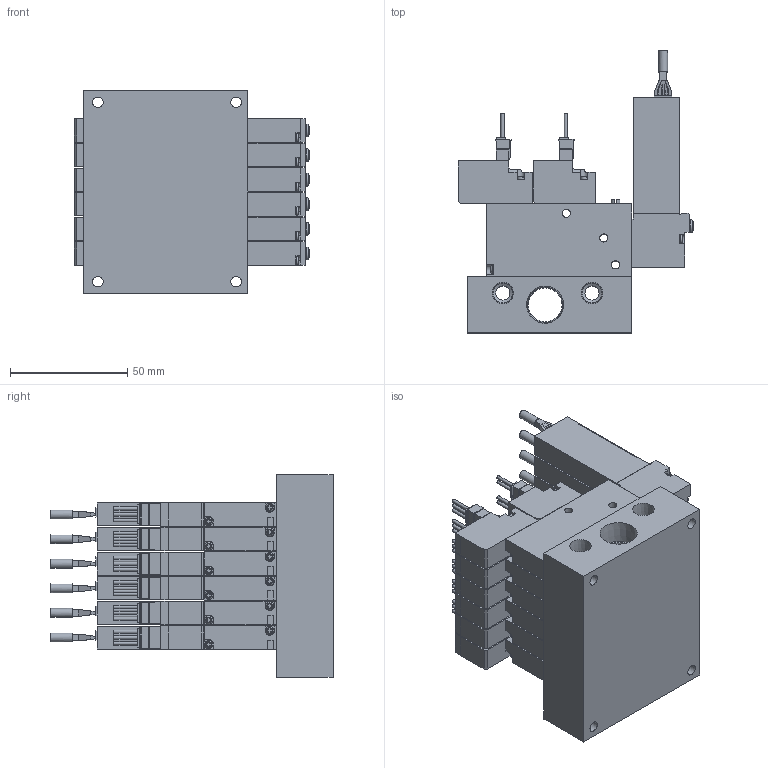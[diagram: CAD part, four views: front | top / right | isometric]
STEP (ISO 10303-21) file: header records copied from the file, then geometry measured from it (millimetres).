
FILE_DESCRIPTION(('STEP AP203'),'1');
FILE_NAME('BMPV42MV9.V9P5W606.stp','2025-04-30T05:48:21',(' '),(' '),'Spatial InterOp 3D',' ',' ');
FILE_SCHEMA(('CONFIG_CONTROL_DESIGN'));
Length unit declared in the file: millimetre
Products named in the file (10): BMPV42MV9.V9P5W606; VACUUM VALVE FUNCTION MPV42-W; VACUUM SENSOR MPV42-V9; VACUUM VALVE FUNCTION MPV42-A; UNIT-MPV42; MC4-M6
Assembly tree (25 placements, depth 2):
  BMPV42MV9.V9P5W606
    VACUUM VALVE FUNCTION MPV42-W  x5
    VACUUM SENSOR MPV42-V9  x5
    VACUUM VALVE FUNCTION MPV42-A  x5
    UNIT-MPV42  x5
    VACUUM VALVE FUNCTION MPV42-W
    VACUUM VALVE FUNCTION MPV42-A
    UNIT-MPV42
    VACUUM SENSOR MPV42-V9
    MC4-M6
Bounding box: 100.35 x 120.3 x 86.5 mm (x, y, z)
Volume: 388709.4 mm3; surface area: 127439.8 mm2
Topology: 25 solids, 25 shells, 2331 faces, 6304 edges, 4173 vertices
Faces by surface type: plane 1818, cylinder 413, cone 40, sphere 30, torus 30
Full cylindrical faces by diameter (mm): 1.4 x30, 1.8 x6, 2.2 x12, 3 x24, 3.5 x66, 3.8 x6, 4.134 x12, 4.5 x4, 5 x6, 5.5 x6, 6 x2, 8.2 x4, 14.5 x1
Entity records: 25110 total; most frequent: CARTESIAN_POINT 4795, ORIENTED_EDGE 3996, DIRECTION 3994, EDGE_CURVE 1998, LINE 1564, VECTOR 1564, VERTEX_POINT 1380, AXIS2_PLACEMENT_3D 1215
